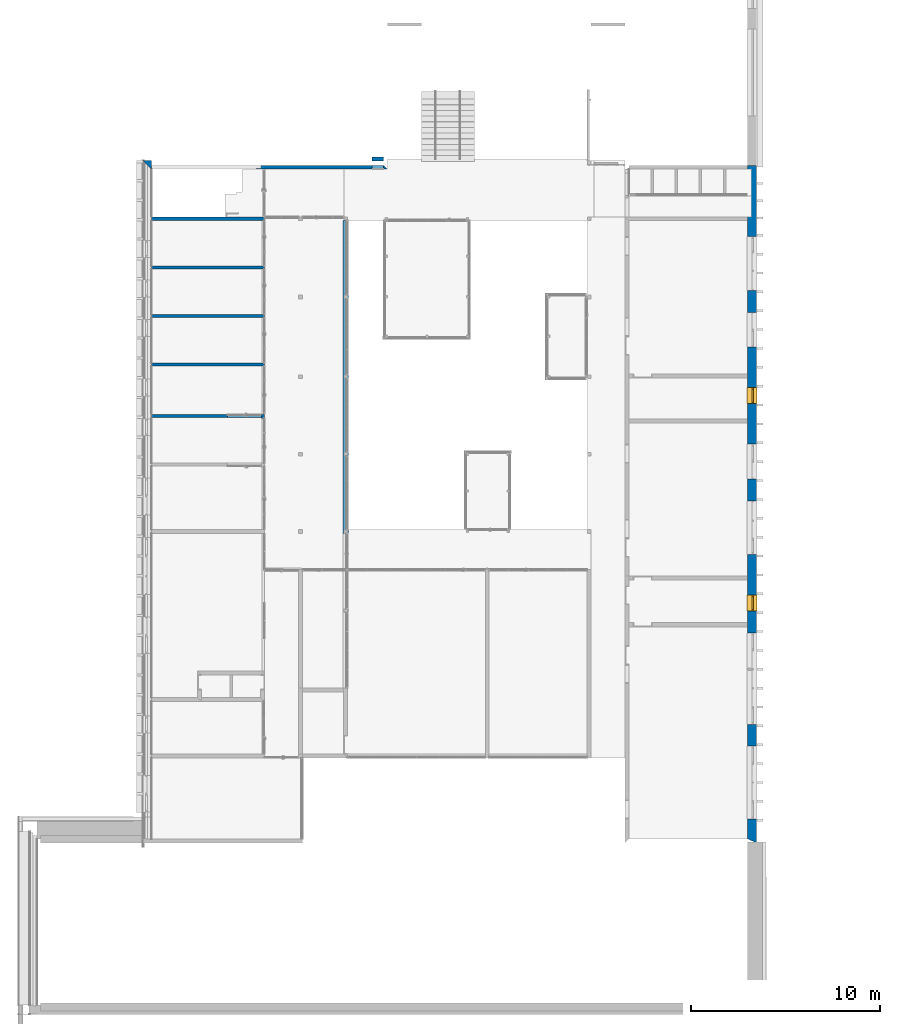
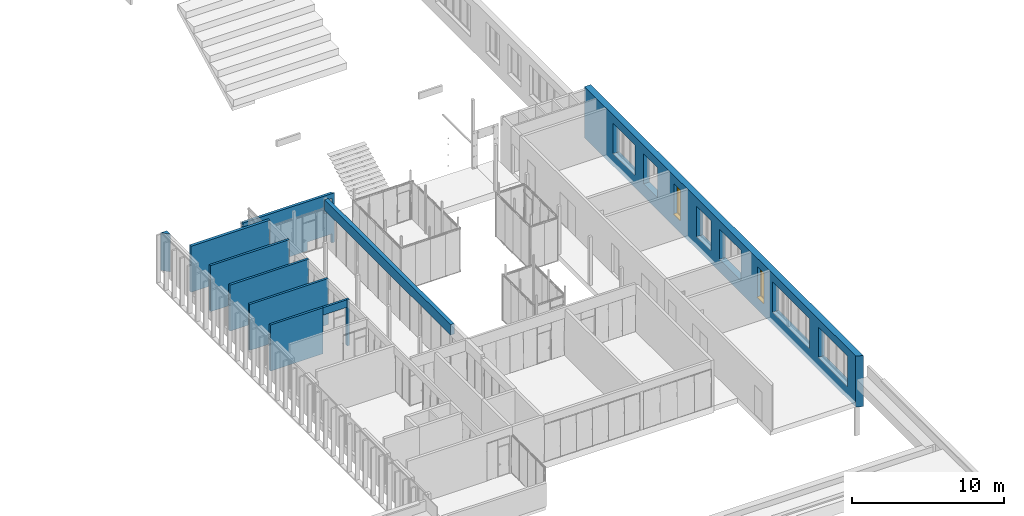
# One storey, part 31 of 387: 12 walls, 2 windows, 11 openings.
"""IFC2X3 building model written with IfcOpenShell, lengths in millimetres."""

from ifc_helpers import new_model, entity, si_unit, converted_unit, derived_unit, money_unit, direction, frame, origin_with_axes, origin_2d_with_axis, place, context, subcontext, project, spatial, polyline, rectangle, outline, extrude, open_shell, faceted_brep, surface_model, source, transform, mapped, material, layer, layer_set, layer_usage, type_object, element, fill, save


model = new_model("IFC2X3")

# Units and contexts
model_context = context("Model", 3, precision=0.01, world=origin_with_axes(), true_north=direction((0.0, 1.0)))
body_context = subcontext(model_context, "Body", "Model", "MODEL_VIEW")
ifc_project = project(units=[si_unit("LENGTHUNIT", "METRE", prefix="MILLI"), si_unit("AREAUNIT", "SQUARE_METRE"), si_unit("VOLUMEUNIT", "CUBIC_METRE"), converted_unit("PLANEANGLEUNIT", "DEGREE", entity("IfcPlaneAngleMeasure", 0.0174532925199), si_unit("PLANEANGLEUNIT", "RADIAN"), dimensions=[0, 0, 0, 0, 0, 0, 0]), si_unit("SOLIDANGLEUNIT", "STERADIAN"), money_unit("EUR"), converted_unit("TIMEUNIT", "Year", entity("IfcTimeMeasure", 31556926.0), si_unit("TIMEUNIT", "SECOND"), dimensions=[0, 0, 1, 0, 0, 0, 0]), si_unit("MASSUNIT", "GRAM", prefix="KILO"), si_unit("THERMODYNAMICTEMPERATUREUNIT", "DEGREE_CELSIUS"), si_unit("LUMINOUSINTENSITYUNIT", "LUMEN"), si_unit("ENERGYUNIT", "JOULE", prefix="MEGA"), derived_unit("THERMALCONDUCTANCEUNIT", [(si_unit("POWERUNIT", "WATT"), 1), (si_unit("LENGTHUNIT", "METRE"), -1), (si_unit("THERMODYNAMICTEMPERATUREUNIT", "KELVIN"), -1)]), derived_unit("SPECIFICHEATCAPACITYUNIT", [(si_unit("ENERGYUNIT", "JOULE"), 1), (si_unit("MASSUNIT", "GRAM", prefix="KILO"), -1), (si_unit("THERMODYNAMICTEMPERATUREUNIT", "KELVIN"), -1)]), derived_unit("MASSDENSITYUNIT", [(si_unit("MASSUNIT", "GRAM", prefix="KILO"), 1), (si_unit("VOLUMEUNIT", "CUBIC_METRE"), -1)])], contexts=[model_context])

# Site, building, storey
site_placement = place(None, origin_with_axes())
site = spatial("IfcSite", under=ifc_project, at=site_placement, Name="Puškini 31, Narva", CompositionType="ELEMENT")
building_placement = place(site_placement, origin_with_axes())
building = spatial("IfcBuilding", under=site, at=building_placement, Name="Narva Riigigümnaasium", CompositionType="ELEMENT")
storey_placement = place(building_placement, frame((0.0, 0.0, 2640.0), z_axis=(0.0, 0.0, 1.0), x_axis=(1.0, 0.0, 0.0)))
storey = spatial("IfcBuildingStorey", under=building, at=storey_placement, Name="2.korrus +2.64", CompositionType="ELEMENT", Elevation=2640.0)

# Wall, openings, windows
ifc_material_1 = material(Name="fassaadiplaat")
ifc_layer_1 = layer(ifc_material_1, 8.0, ventilated="UNKNOWN")
ifc_material_2 = material(Name="Salto-roovitus")
ifc_layer_2 = layer(ifc_material_2, 50.0, ventilated="UNKNOWN")
ifc_material_3 = material(Name="Salto-PIR soojustus")
ifc_layer_3 = layer(ifc_material_3, 50.0, ventilated="UNKNOWN")
ifc_layer_4 = layer(ifc_material_3, 150.0, ventilated="UNKNOWN")
ifc_material_4 = material(Name="Betoon element")
ifc_layer_5 = layer(ifc_material_4, 200.0, ventilated="UNKNOWN")
ifc_material_5 = material(Name="Salto-siseviimistlus-seinad")
ifc_layer_6 = layer(ifc_material_5, 10.0, ventilated="UNKNOWN")
ifc_layer_set_1 = layer_set([ifc_layer_1, ifc_layer_2, ifc_layer_3, ifc_layer_4, ifc_layer_5, ifc_layer_6], Name="G-VS-01")
ifc_layer_usage_1 = layer_usage(ifc_layer_set_1, "AXIS2", "POSITIVE", -458.0)
wall_type_1 = type_object("IfcWallType", Name="G-VS-01 468", PredefinedType="NOTDEFINED")
wall_1_placement = place(storey_placement, frame((54000.0000018, 159200.0, -400.177515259), z_axis=(0.0, 0.0, 1.0), x_axis=(0.0, 1.0, 0.0)))
wall_1 = element("IfcWallStandardCase", 1, at=wall_1_placement, inside=storey, type_object=wall_type_1, material=ifc_layer_usage_1, Name="Välissein", context=body_context, shape_type="SweptSolid", body=[
    extrude(outline(polyline([(-200.000000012, -458.0), (35699.9999996, -458.0), (35699.9999996, 10.0), (9.99999998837, 10.0), (-200.000000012, -458.0)])), origin_with_axes(), (0.0, 0.0, 1.0), 4100.17751526),
])
opening_1_placement = place(wall_1_placement, frame((3000.0, 0.0, 1000.0), z_axis=(0.0, 0.0, 1.0), x_axis=(1.0, 0.0, 0.0)))
element("IfcOpeningElement", 2, at=opening_1_placement, cuts=wall_1, Name="G-A-21", context=body_context, shape_type="SweptSolid", body=[
    extrude(rectangle(XDim=3850.0, YDim=2430.0, at=origin_2d_with_axis()), frame((0.0, -308.0, 1215.0), z_axis=(0.0, 1.0, 0.0), x_axis=(-1.0, 0.0, 0.0)), (0.0, 0.0, 1.0), 786.0),
    extrude(rectangle(XDim=3850.0, YDim=2430.0, at=origin_2d_with_axis()), frame((0.0, -308.0, 1215.0), z_axis=(0.0, -1.0, 0.0), x_axis=(-1.0, 0.0, 0.0)), (0.0, 0.0, 1.0), 618.0),
])
opening_2_placement = place(wall_1_placement, frame((26993.75, 0.0, 1000.17751526), z_axis=(0.0, 0.0, 1.0), x_axis=(1.0, 0.0, 0.0)))
element("IfcOpeningElement", 3, at=opening_2_placement, cuts=wall_1, Name="G-A-09", context=body_context, shape_type="SweptSolid", body=[
    extrude(rectangle(XDim=1850.0, YDim=2430.0, at=origin_2d_with_axis()), frame((0.0, -308.0, 1215.0), z_axis=(0.0, -1.0, 0.0), x_axis=(1.0, 0.0, 0.0)), (0.0, 0.0, -1.0), 786.0),
    extrude(rectangle(XDim=1850.0, YDim=2430.0, at=origin_2d_with_axis()), frame((0.0, -308.0, 1215.0), z_axis=(0.0, 1.0, 0.0), x_axis=(1.0, 0.0, 0.0)), (0.0, 0.0, -1.0), 618.0),
])
opening_3_placement = place(wall_1_placement, frame((8500.0, 0.0, 1000.0), z_axis=(0.0, 0.0, 1.0), x_axis=(1.0, 0.0, 0.0)))
element("IfcOpeningElement", 4, at=opening_3_placement, cuts=wall_1, Name="G-A-24", context=body_context, shape_type="SweptSolid", body=[
    extrude(rectangle(XDim=4850.0, YDim=2430.0, at=origin_2d_with_axis()), frame((0.0, -308.0, 1215.0), z_axis=(0.0, 1.0, 0.0), x_axis=(-1.0, 0.0, 0.0)), (0.0, 0.0, 1.0), 786.0),
    extrude(rectangle(XDim=4850.0, YDim=2430.0, at=origin_2d_with_axis()), frame((0.0, -308.0, 1215.0), z_axis=(0.0, -1.0, 0.0), x_axis=(-1.0, 0.0, 0.0)), (0.0, 0.0, 1.0), 618.0),
])
opening_4_placement = place(wall_1_placement, frame((16500.0, 0.0, 1000.0), z_axis=(0.0, 0.0, 1.0), x_axis=(1.0, 0.0, 0.0)))
element("IfcOpeningElement", 5, at=opening_4_placement, cuts=wall_1, Name="G-A-16", context=body_context, shape_type="SweptSolid", body=[
    extrude(rectangle(XDim=2850.0, YDim=2430.0, at=origin_2d_with_axis()), frame((0.0, -308.0, 1215.0), z_axis=(0.0, -1.0, 0.0), x_axis=(1.0, 0.0, 0.0)), (0.0, 0.0, -1.0), 786.0),
    extrude(rectangle(XDim=2850.0, YDim=2430.0, at=origin_2d_with_axis()), frame((0.0, -308.0, 1215.0), z_axis=(0.0, 1.0, 0.0), x_axis=(1.0, 0.0, 0.0)), (0.0, 0.0, -1.0), 618.0),
])
opening_5_placement = place(wall_1_placement, frame((20000.0, 0.0, 1000.0), z_axis=(0.0, 0.0, 1.0), x_axis=(1.0, 0.0, 0.0)))
element("IfcOpeningElement", 6, at=opening_5_placement, cuts=wall_1, Name="G-A-09", context=body_context, shape_type="SweptSolid", body=[
    extrude(rectangle(XDim=1850.0, YDim=2430.0, at=origin_2d_with_axis()), frame((0.0, -308.0, 1215.0), z_axis=(0.0, 1.0, 0.0), x_axis=(-1.0, 0.0, 0.0)), (0.0, 0.0, 1.0), 786.0),
    extrude(rectangle(XDim=1850.0, YDim=2430.0, at=origin_2d_with_axis()), frame((0.0, -308.0, 1215.0), z_axis=(0.0, -1.0, 0.0), x_axis=(-1.0, 0.0, 0.0)), (0.0, 0.0, 1.0), 618.0),
])
opening_6_placement = place(wall_1_placement, frame((30500.0, 0.0, 1000.17751526), z_axis=(0.0, 0.0, 1.0), x_axis=(1.0, 0.0, 0.0)))
element("IfcOpeningElement", 7, at=opening_6_placement, cuts=wall_1, Name="G-A-16", context=body_context, shape_type="SweptSolid", body=[
    extrude(rectangle(XDim=2850.0, YDim=2430.0, at=origin_2d_with_axis()), frame((0.0, -308.0, 1215.0), z_axis=(0.0, 1.0, 0.0), x_axis=(-1.0, 0.0, 0.0)), (0.0, 0.0, 1.0), 786.0),
    extrude(rectangle(XDim=2850.0, YDim=2430.0, at=origin_2d_with_axis()), frame((0.0, -308.0, 1215.0), z_axis=(0.0, -1.0, 0.0), x_axis=(-1.0, 0.0, 0.0)), (0.0, 0.0, 1.0), 618.0),
])
opening_7_placement = place(wall_1_placement, frame((12500.0, 0.0, 1000.0), z_axis=(0.0, 0.0, 1.0), x_axis=(1.0, 0.0, 0.0)))
opening_7 = element("IfcOpeningElement", 8, at=opening_7_placement, cuts=wall_1, Name="G-A-01", context=body_context, shape_type="SweptSolid", body=[
    extrude(rectangle(XDim=850.0, YDim=2430.0, at=origin_2d_with_axis()), frame((0.0, -308.0, 1215.0), z_axis=(0.0, 1.0, 0.0), x_axis=(-1.0, 0.0, 0.0)), (0.0, 0.0, 1.0), 786.0),
    extrude(rectangle(XDim=850.0, YDim=2430.0, at=origin_2d_with_axis()), frame((0.0, -308.0, 1215.0), z_axis=(0.0, -1.0, 0.0), x_axis=(-1.0, 0.0, 0.0)), (0.0, 0.0, 1.0), 618.0),
])
opening_8_placement = place(wall_1_placement, frame((23500.0, 0.0, 1000.0), z_axis=(0.0, 0.0, 1.0), x_axis=(1.0, 0.0, 0.0)))
opening_8 = element("IfcOpeningElement", 9, at=opening_8_placement, cuts=wall_1, Name="G-A-01", context=body_context, shape_type="SweptSolid", body=[
    extrude(rectangle(XDim=850.0, YDim=2430.0, at=origin_2d_with_axis()), frame((0.0, -308.0, 1215.0), z_axis=(0.0, 1.0, 0.0), x_axis=(-1.0, 0.0, 0.0)), (0.0, 0.0, 1.0), 786.0),
    extrude(rectangle(XDim=850.0, YDim=2430.0, at=origin_2d_with_axis()), frame((0.0, -308.0, 1215.0), z_axis=(0.0, -1.0, 0.0), x_axis=(-1.0, 0.0, 0.0)), (0.0, 0.0, 1.0), 618.0),
])
window_style = type_object("IfcWindowStyle", Name="Horizontal Multi-Sash Window 23", ConstructionType="NOTDEFINED", OperationType="SINGLE_PANEL", ParameterTakesPrecedence=False, Sizeable=False)
shared_shape = source(origin_with_axes(), body_context, "Body", "SurfaceModel", [
    surface_model("IfcShellBasedSurfaceModel", [(425.0, -76.0, 50.0), (-425.0, -76.0, 50.0), (-425.0, -76.0, 40.0), (425.0, -76.0, 40.0), (-425.0, -255.0, 28.0), (425.0, -255.0, 28.0), (-425.0, -255.0, 8.0), (425.0, -255.0, 8.0), (-425.0, -245.0, 18.0), (425.0, -245.0, 18.0)], [open_shell([[[0, 1, 2, 3]], [[3, 2, 4, 5]], [[5, 4, 6, 7]], [[7, 6, 8, 9]]])]),
    faceted_brep([(-425.0, 0.0, 0.0), (-425.0, 0.0, 25.0), (-425.0, 243.0, 25.0), (-425.0, 243.0, 0.0), (425.0, 0.0, 0.0), (425.0, 0.0, 25.0), (425.0, 243.0, 25.0), (425.0, 273.0, 25.0), (-425.0, 273.0, 25.0), (-425.0, 273.0, 0.0), (425.0, 273.0, 0.0), (425.0, 243.0, 0.0)], [[[0, 1, 2, 3]], [[4, 5, 1, 0]], [[1, 5, 6, 7, 8, 2]], [[3, 2, 8, 9]], [[0, 3, 9, 10, 11, 4]], [[11, 6, 5, 4]], [[10, 7, 6, 11]], [[9, 8, 7, 10]]]),
    faceted_brep([(385.0, 0.0, 2380.0), (385.0, -70.0, 2380.0), (375.0, -70.0, 2380.0), (375.0, -75.0, 2380.0), (425.0, -75.0, 2380.0), (425.0, 0.0, 2380.0), (385.0, 0.0, 50.0), (385.0, -70.0, 50.0), (375.0, -70.0, 50.0), (375.0, -75.0, 50.0), (425.0, -75.0, 50.0), (425.0, 0.0, 50.0)], [[[0, 1, 2, 3, 4, 5]], [[1, 0, 6, 7]], [[8, 2, 1, 7]], [[2, 8, 9, 3]], [[4, 3, 9, 10]], [[5, 4, 10, 11]], [[6, 0, 5, 11]], [[7, 6, 11, 10, 9, 8]]]),
    faceted_brep([(-375.0, -70.0, 2380.0), (-385.0, -70.0, 2380.0), (-385.0, 0.0, 2380.0), (-425.0, 0.0, 2380.0), (-425.0, -75.0, 2380.0), (-375.0, -75.0, 2380.0), (-375.0, -70.0, 50.0), (-385.0, -70.0, 50.0), (-385.0, 0.0, 50.0), (-425.0, 0.0, 50.0), (-425.0, -75.0, 50.0), (-375.0, -75.0, 50.0)], [[[0, 1, 2, 3, 4, 5]], [[1, 0, 6, 7]], [[8, 2, 1, 7]], [[2, 8, 9, 3]], [[9, 10, 4, 3]], [[10, 11, 5, 4]], [[6, 0, 5, 11]], [[7, 6, 11, 10, 9, 8]]]),
    faceted_brep([(385.0, 0.0, 2380.0), (385.0, 0.0, 2390.0), (-385.0, 0.0, 2390.0), (-385.0, 0.0, 2380.0), (-425.0, 0.0, 2380.0), (-425.0, 0.0, 2430.0), (425.0, 0.0, 2430.0), (425.0, 0.0, 2380.0), (385.0, -70.0, 2380.0), (385.0, -70.0, 2390.0), (-385.0, -70.0, 2390.0), (-385.0, -70.0, 2380.0), (-375.0, -70.0, 2380.0), (-375.0, -75.0, 2380.0), (-425.0, -75.0, 2380.0), (-425.0, -75.0, 2430.0), (425.0, -75.0, 2430.0), (425.0, -75.0, 2380.0), (375.0, -75.0, 2380.0), (375.0, -70.0, 2380.0)], [[[0, 1, 2, 3, 4, 5, 6, 7]], [[1, 0, 8, 9]], [[2, 1, 9, 10]], [[3, 2, 10, 11]], [[11, 12, 13, 14, 4, 3]], [[4, 14, 15, 5]], [[5, 15, 16, 6]], [[6, 16, 17, 7]], [[8, 0, 7, 17, 18, 19]], [[12, 11, 10, 9, 8, 19]], [[12, 19, 18, 13]], [[14, 13, 18, 17, 16, 15]]]),
    faceted_brep([(-375.0, -70.0, 50.0), (-385.0, -70.0, 50.0), (-385.0, 0.0, 50.0), (-425.0, 0.0, 50.0), (-425.0, -75.0, 50.0), (-375.0, -75.0, 50.0), (375.0, -70.0, 50.0), (385.0, -70.0, 50.0), (385.0, -70.0, 40.0), (-385.0, -70.0, 40.0), (-385.0, 0.0, 40.0), (385.0, 0.0, 40.0), (385.0, 0.0, 50.0), (425.0, 0.0, 50.0), (425.0, 0.0, 0.0), (-425.0, 0.0, 0.0), (-425.0, -75.0, 0.0), (425.0, -75.0, 50.0), (375.0, -75.0, 50.0), (425.0, -75.0, 0.0)], [[[0, 1, 2, 3, 4, 5]], [[1, 0, 6, 7, 8, 9]], [[10, 2, 1, 9]], [[11, 12, 13, 14, 15, 3, 2, 10]], [[15, 16, 4, 3]], [[17, 18, 5, 4, 16, 19]], [[6, 0, 5, 18]], [[7, 6, 18, 17, 13, 12]], [[7, 12, 11, 8]], [[11, 10, 9, 8]], [[13, 17, 19, 14]], [[14, 19, 16, 15]]]),
    faceted_brep([(325.0, -70.0, 2330.0), (385.0, -70.0, 2330.0), (385.0, 15.0, 2330.0), (325.0, 15.0, 2330.0), (325.0, -70.0, 100.0), (385.0, -70.0, 100.0), (385.0, 15.0, 100.0), (325.0, 15.0, 100.0)], [[[0, 1, 2, 3]], [[0, 4, 5, 1]], [[1, 5, 6, 2]], [[3, 2, 6, 7]], [[4, 0, 3, 7]], [[5, 4, 7, 6]]]),
    faceted_brep([(-325.0, -70.0, 100.0), (-385.0, -70.0, 100.0), (-385.0, 15.0, 100.0), (-325.0, 15.0, 100.0), (-325.0, -70.0, 2330.0), (-385.0, -70.0, 2330.0), (-385.0, 15.0, 2330.0), (-325.0, 15.0, 2330.0)], [[[0, 1, 2, 3]], [[0, 4, 5, 1]], [[1, 5, 6, 2]], [[3, 2, 6, 7]], [[4, 0, 3, 7]], [[5, 4, 7, 6]]]),
    faceted_brep([(-385.0, -70.0, 40.0), (-385.0, -70.0, 100.0), (-385.0, 15.0, 100.0), (-385.0, 15.0, 40.0), (385.0, -70.0, 40.0), (385.0, -70.0, 100.0), (325.0, -70.0, 100.0), (-325.0, -70.0, 100.0), (-325.0, 15.0, 100.0), (325.0, 15.0, 100.0), (385.0, 15.0, 100.0), (385.0, 15.0, 40.0)], [[[0, 1, 2, 3]], [[0, 4, 5, 6, 7, 1]], [[1, 7, 8, 2]], [[3, 2, 8, 9, 10, 11]], [[4, 0, 3, 11]], [[5, 4, 11, 10]], [[6, 5, 10, 9]], [[7, 6, 9, 8]]]),
    faceted_brep([(385.0, -70.0, 2390.0), (385.0, -70.0, 2330.0), (385.0, 15.0, 2330.0), (385.0, 15.0, 2390.0), (-385.0, -70.0, 2390.0), (-385.0, -70.0, 2330.0), (-325.0, -70.0, 2330.0), (325.0, -70.0, 2330.0), (325.0, 15.0, 2330.0), (-325.0, 15.0, 2330.0), (-385.0, 15.0, 2330.0), (-385.0, 15.0, 2390.0)], [[[0, 1, 2, 3]], [[0, 4, 5, 6, 7, 1]], [[1, 7, 8, 2]], [[3, 2, 8, 9, 10, 11]], [[4, 0, 3, 11]], [[5, 4, 11, 10]], [[6, 5, 10, 9]], [[7, 6, 9, 8]]]),
    surface_model("IfcShellBasedSurfaceModel", [(325.0, -37.5, 100.0), (325.0, -37.5, 2330.0), (-325.0, -37.5, 2330.0), (-325.0, -37.5, 100.0)], [open_shell([[[0, 1, 2, 3]]])]),
    surface_model("IfcShellBasedSurfaceModel", [(325.0, -17.5, 100.0), (-325.0, -17.5, 100.0), (-325.0, -17.5, 2330.0), (325.0, -17.5, 2330.0)], [open_shell([[[0, 1, 2, 3]]])]),
])
window_1_placement = place(opening_7_placement, frame((-425.0, 0.0, 0.0), z_axis=(0.0, 0.0, 1.0), x_axis=(1.0, 0.0, 0.0)))
window_1 = element("IfcWindow", 10, at=window_1_placement, inside=storey, type_object=window_style, Name="G-A-01", ObjectType="WINDOW", OverallHeight=2430.0, OverallWidth=850.0, context=body_context, shape_type="MappedRepresentation", body=[
    mapped(shared_shape, transform((425.0, -233.0, 0.0))),
])
fill(opening_7, window_1)
window_2_placement = place(opening_8_placement, frame((-425.0, 0.0, 0.0), z_axis=(0.0, 0.0, 1.0), x_axis=(1.0, 0.0, 0.0)))
window_2 = element("IfcWindow", 11, at=window_2_placement, inside=storey, type_object=window_style, Name="G-A-01", ObjectType="WINDOW", OverallHeight=2430.0, OverallWidth=850.0, context=body_context, shape_type="MappedRepresentation", body=[
    mapped(shared_shape, transform((425.0, -233.0, 0.0))),
])
fill(opening_8, window_2)

# Wall
ifc_layer_usage_2 = layer_usage(ifc_layer_set_1, "AXIS2", "NEGATIVE", 458.0)
wall_2_placement = place(storey_placement, frame((22399.9999985, 194700.0, 0.0), z_axis=(0.0, 0.0, 1.0), x_axis=(1.0, 0.0, 0.0)))
element("IfcWallStandardCase", 12, at=wall_2_placement, inside=storey, type_object=wall_type_1, material=ifc_layer_usage_2, Name="Välissein", context=body_context, shape_type="SweptSolid", body=[
    extrude(outline(polyline([(10.0, -9.99999999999), (10.0, 458.0), (-458.0, 458.0), (10.0, -9.99999999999)])), origin_with_axes(), (0.0, 0.0, 1.0), 3030.0),
])

# Wall, openings
ifc_layer_set_2 = layer_set([ifc_layer_5], Name="G-SS-01")
ifc_layer_usage_3 = layer_usage(ifc_layer_set_2, "AXIS2", "POSITIVE", 0.0)
wall_type_2 = type_object("IfcWallType", Name="G-SS-01 200", PredefinedType="NOTDEFINED")
wall_3_placement = place(storey_placement, frame((34899.9999932, 194900.0, -1980.0), z_axis=(0.0, 0.0, 1.0), x_axis=(-1.0, 0.0, 0.0)))
wall_3 = element("IfcWallStandardCase", 13, at=wall_3_placement, inside=storey, type_object=wall_type_2, material=ifc_layer_usage_3, Name="Sisesein", context=body_context, shape_type="SweptSolid", body=[
    extrude(outline(polyline([(200.0, 0.0), (6957.96011485, 0.0), (6957.96011485, 200.0), (0.0, 200.0), (200.0, 0.0)])), origin_with_axes(), (0.0, 0.0, 1.0), 3960.0),
])
opening_9_placement = place(wall_3_placement, frame((500.000005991, 0.0, 2555.0), z_axis=(0.0, 0.0, 1.0), x_axis=(1.0, 0.0, 0.0)))
element("IfcOpeningElement", 14, at=opening_9_placement, cuts=wall_3, Name="G-SU-098", context=body_context, shape_type="SweptSolid", body=[
    extrude(rectangle(XDim=600.000011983, YDim=1000.0, at=origin_2d_with_axis()), frame((0.0, -200.0, 500.0), z_axis=(0.0, -1.0, 0.0), x_axis=(-1.0, 0.0, 0.0)), (0.0, 0.0, -1.0), 600.0),
])
opening_10_placement = place(wall_3_placement, frame((1145.00014833, 0.0, 0.0), z_axis=(0.0, 0.0, 1.0), x_axis=(1.0, 0.0, 0.0)))
element("IfcOpeningElement", 15, at=opening_10_placement, cuts=wall_3, Name="ava seinas", context=body_context, shape_type="SweptSolid", body=[
    extrude(rectangle(XDim=1869.99968706, YDim=720.0, at=origin_2d_with_axis()), frame((0.0, 50.0, 360.0), z_axis=(0.0, -1.0, 0.0), x_axis=(1.0, 0.0, 0.0)), (0.0, 0.0, -1.0), 350.0),
    extrude(rectangle(XDim=1869.99968706, YDim=720.0, at=origin_2d_with_axis()), frame((0.0, 50.0, 360.0), z_axis=(0.0, 1.0, 0.0), x_axis=(1.0, 0.0, 0.0)), (0.0, 0.0, -1.0), 350.0),
])

# Wall
ifc_material_6 = material(Name="siseviimistlus-seinad")
ifc_layer_7 = layer(ifc_material_6, 10.0, ventilated="UNKNOWN")
ifc_layer_set_3 = layer_set([ifc_layer_5, ifc_layer_7], Name="G-SS-01-02")
ifc_layer_usage_4 = layer_usage(ifc_layer_set_3, "AXIS2", "NEGATIVE", 0.0)
wall_type_3 = type_object("IfcWallType", Name="G-SS-01-02 210", PredefinedType="NOTDEFINED")
wall_4_placement = place(storey_placement, frame((22399.9999985, 192180.0, 0.0), z_axis=(0.0, 0.0, 1.0), x_axis=(1.0, 0.0, 0.0)))
element("IfcWallStandardCase", 16, at=wall_4_placement, inside=storey, type_object=wall_type_3, material=ifc_layer_usage_4, Name="Sisesein", context=body_context, shape_type="SweptSolid", body=[
    extrude(outline(polyline([(10.0, -210.0), (5999.95139983, -210.0), (5999.95139983, 0.0), (10.0, 0.0), (10.0, -210.0)])), origin_with_axes(), (0.0, 0.0, 1.0), 3700.0),
])

# Wall, opening
ifc_material_7 = material(Name="õõnes betoonplokk")
ifc_layer_8 = layer(ifc_material_7, 190.0, ventilated="UNKNOWN")
ifc_layer_set_4 = layer_set([ifc_layer_8, ifc_layer_7], Name="G-SS-02-01")
ifc_layer_usage_5 = layer_usage(ifc_layer_set_4, "AXIS2", "POSITIVE", 0.0)
wall_type_4 = type_object("IfcWallType", Name="G-SS-02-01 200", PredefinedType="NOTDEFINED")
wall_5_placement = place(storey_placement, frame((34900.0094181, 195339.961271, -995.0), z_axis=(0.0, 0.0, 1.0), x_axis=(-1.0, 0.0, 0.0)))
wall_5 = element("IfcWallStandardCase", 17, at=wall_5_placement, inside=storey, type_object=wall_type_4, material=ifc_layer_usage_5, Name="Sisesein", context=body_context, shape_type="SweptSolid", body=[
    extrude(outline(polyline([(200.009424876, 0.0), (799.990568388, 0.0), (799.990568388, 200.0), (200.009424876, 200.0), (200.009424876, 0.0)])), origin_with_axes(), (0.0, 0.0, 1.0), 2570.0),
])
opening_11_placement = place(wall_5_placement, frame((1428.52206932, 0.0, -985.0), z_axis=(0.0, 0.0, 1.0), x_axis=(1.0, 0.0, 0.0)))
element("IfcOpeningElement", 18, at=opening_11_placement, cuts=wall_5, Name="ava seinas", context=body_context, shape_type="SweptSolid", body=[
    extrude(rectangle(XDim=1869.99968706, YDim=720.0, at=origin_2d_with_axis()), frame((0.0, 50.0, 360.0), z_axis=(0.0, -1.0, 0.0), x_axis=(1.0, 0.0, 0.0)), (0.0, 0.0, -1.0), 350.0),
    extrude(rectangle(XDim=1869.99968706, YDim=720.0, at=origin_2d_with_axis()), frame((0.0, 50.0, 360.0), z_axis=(0.0, 1.0, 0.0), x_axis=(1.0, 0.0, 0.0)), (0.0, 0.0, -1.0), 350.0),
])

# Walls
ifc_material_8 = material(Name="kergbetoonplokk")
ifc_layer_9 = layer(ifc_material_8, 150.0, ventilated="UNKNOWN")
ifc_layer_set_5 = layer_set([ifc_layer_7, ifc_layer_9, ifc_layer_7], Name="G-SS-04")
ifc_layer_usage_6 = layer_usage(ifc_layer_set_5, "AXIS2", "NEGATIVE", 10.0)
wall_type_5 = type_object("IfcWallType", Name="G-SS-04 170", PredefinedType="NOTDEFINED")
wall_6_placement = place(storey_placement, frame((28399.9999995, 189409.973479, 0.0), z_axis=(0.0, 0.0, 1.0), x_axis=(-1.0, 0.0, 0.0)))
element("IfcWallStandardCase", 19, at=wall_6_placement, inside=storey, type_object=wall_type_5, material=ifc_layer_usage_6, Name="Sisesein", context=body_context, shape_type="SweptSolid", body=[
    extrude(outline(polyline([(0.0, -160.0), (5990.00000103, -160.0), (5990.00000103, 9.99999999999), (0.0, 9.99999999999), (0.0, -160.0)])), origin_with_axes(), (0.0, 0.0, 1.0), 3700.0),
])
wall_7_placement = place(storey_placement, frame((28399.9999992, 186839.973479, 0.0), z_axis=(0.0, 0.0, 1.0), x_axis=(-1.0, 0.0, 0.0)))
element("IfcWallStandardCase", 20, at=wall_7_placement, inside=storey, type_object=wall_type_5, material=ifc_layer_usage_6, Name="Sisesein", context=body_context, shape_type="SweptSolid", body=[
    extrude(outline(polyline([(0.0, -160.0), (5990.00000073, -160.0), (5990.00000073, 9.99999999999), (0.0, 9.99999999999), (0.0, -160.0)])), origin_with_axes(), (0.0, 0.0, 1.0), 3700.0),
])
wall_8_placement = place(storey_placement, frame((28400.0000001, 184269.973479, 0.0), z_axis=(0.0, 0.0, 1.0), x_axis=(-1.0, 0.0, 0.0)))
element("IfcWallStandardCase", 21, at=wall_8_placement, inside=storey, type_object=wall_type_5, material=ifc_layer_usage_6, Name="Sisesein", context=body_context, shape_type="SweptSolid", body=[
    extrude(outline(polyline([(0.0, -160.0), (5990.00000166, -160.0), (5990.00000166, 9.99999999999), (0.0, 9.99999999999), (0.0, -160.0)])), origin_with_axes(), (0.0, 0.0, 1.0), 3700.0),
])
wall_9_placement = place(storey_placement, frame((22399.9999985, 181689.973357, 0.0), z_axis=(0.0, 0.0, 1.0), x_axis=(1.0, 0.0, 0.0)))
element("IfcWallStandardCase", 22, at=wall_9_placement, inside=storey, type_object=wall_type_5, material=ifc_layer_usage_6, Name="Sisesein", context=body_context, shape_type="SweptSolid", body=[
    extrude(outline(polyline([(9.99999999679, -160.0), (4030.00000686, -160.0), (4030.00000686, 9.99999999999), (10.0000000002, 9.99999999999), (9.99999999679, -160.0)])), origin_with_axes(), (0.0, 0.0, 1.0), 3700.0),
])
wall_10_placement = place(storey_placement, frame((26430.0000053, 181689.973357, 3099.99999095), z_axis=(0.0, 0.0, 1.0), x_axis=(1.0, 0.0, 0.0)))
element("IfcWallStandardCase", 23, at=wall_10_placement, inside=storey, type_object=wall_type_5, material=ifc_layer_usage_6, Name="Sisesein", context=body_context, shape_type="SweptSolid", body=[
    extrude(outline(polyline([(1.60582658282e-09, -160.0), (1799.99999426, -160.0), (1799.99999426, 9.99999999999), (-1.03028696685e-10, 9.99999999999), (1.60582658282e-09, -160.0)])), origin_with_axes(), (0.0, 0.0, 1.0), 600.000009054),
])
ifc_layer_usage_7 = layer_usage(ifc_layer_set_5, "AXIS2", "POSITIVE", 0.0)
wall_11_placement = place(storey_placement, frame((28400.0000001, 181499.973357, 0.0), z_axis=(0.0, 0.0, 1.0), x_axis=(-2.76486389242e-09, 1.0, 0.0)))
element("IfcWallStandardCase", 24, at=wall_11_placement, inside=storey, type_object=wall_type_5, material=ifc_layer_usage_7, Name="Sisesein", context=body_context, shape_type="SweptSolid", body=[
    extrude(outline(polyline([(0.0, 0.0), (200.00000007, 0.0), (200.00000007, 170.0), (0.0, 170.0), (0.0, 0.0)])), origin_with_axes(), (0.0, 0.0, 1.0), 3700.0),
])
ifc_material_9 = material(Name="SKR-02_Kipsplaat")
ifc_layer_10 = layer(ifc_material_9, 12.5, ventilated="UNKNOWN")
ifc_layer_11 = layer(ifc_material_9, 12.0, ventilated="UNKNOWN")
ifc_material_10 = material(Name="SOJ-03_Soojustus - Mineraal Pehme")
ifc_layer_12 = layer(ifc_material_10, 100.0, ventilated="UNKNOWN")
ifc_material_11 = material(Name="VKR-06_Õhkvahe")
ifc_layer_13 = layer(ifc_material_11, 40.0, ventilated="UNKNOWN")
ifc_layer_set_6 = layer_set([ifc_layer_10, ifc_layer_11, ifc_layer_12, ifc_layer_13, ifc_layer_12, ifc_layer_11, ifc_layer_10], Name="G-SS-10")
ifc_layer_usage_8 = layer_usage(ifc_layer_set_6, "AXIS2", "NEGATIVE", 144.5)
wall_type_6 = type_object("IfcWallType", Name="G-SS-10 289", PredefinedType="NOTDEFINED")
wall_12_placement = place(storey_placement, frame((32700.0000014, 191980.0, 3060.0), z_axis=(0.0, 0.0, 1.0), x_axis=(0.0, -1.0, 0.0)))
element("IfcWallStandardCase", 25, at=wall_12_placement, inside=storey, type_object=wall_type_6, material=ifc_layer_usage_8, Name="Sisesein", context=body_context, shape_type="SweptSolid", body=[
    extrude(outline(polyline([(0.0, -144.5), (16579.9998853, -144.5), (16579.9998853, 144.5), (0.0, 144.5), (0.0, -144.5)])), origin_with_axes(), (0.0, 0.0, 1.0), 835.0),
])

save(model, "model.ifc")
